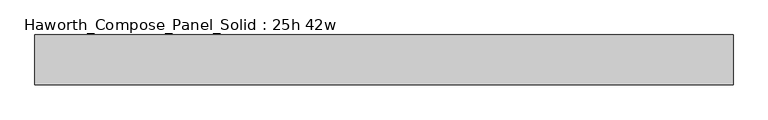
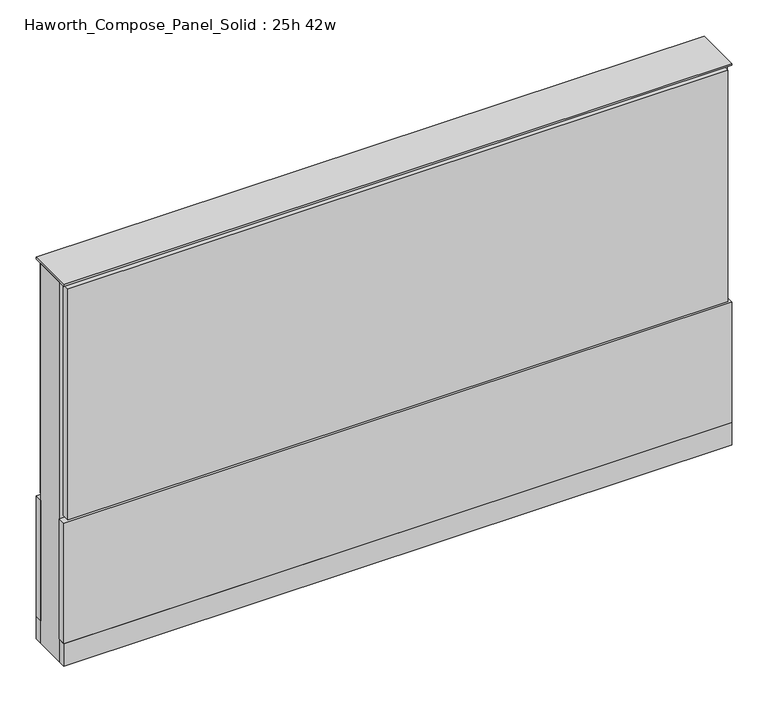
"""IFC4 building model written with IfcOpenShell, lengths in millimetres: furniture geometry, Haworth_Compose_Panel_Solid : 25h 42w."""

from ifc_helpers import new_model, si_unit, point, frame, frame_2d, origin, origin_with_axes, place, context, project, spatial, polyline, circle_curve, trimmed, segment, composite_curve, outline, extrude, source, transform, mapped, element, save


def haworth_compose_panel_solid_25h_42w_6fae4e9b(model_context):
    return source(origin(), model_context, "Body", "SweptSolid", [
        extrude(outline(composite_curve([segment(trimmed(circle_curve(frame_2d((-454.7597098, 0.0)), 12.7), [point((-467.4597098, 0.0))], [point((-442.0597098, 0.0))], False, "CARTESIAN"), True, "CONTINUOUS"), segment(trimmed(circle_curve(frame_2d((-454.7597098, 0.0)), 12.7), [point((-442.0597098, 0.0))], [point((-467.4597098, 0.0))], False, "CARTESIAN"), True, "CONTINUOUS")], self_intersect=False)), origin_with_axes(), (0.0, 0.0, 1.0), 12.7),
        extrude(outline(composite_curve([segment(trimmed(circle_curve(frame_2d((459.6402902, 0.0)), 12.7), [point((446.9402902, 0.0))], [point((472.3402902, 0.0))], False, "CARTESIAN"), True, "CONTINUOUS"), segment(trimmed(circle_curve(frame_2d((459.6402902, 0.0)), 12.7), [point((472.3402902, 0.0))], [point((446.9402902, 0.0))], False, "CARTESIAN"), True, "CONTINUOUS")], self_intersect=False)), origin_with_axes(), (0.0, 0.0, 1.0), 12.7),
        extrude(outline(polyline([(529.4902902, -38.1), (-524.6097098, -38.1), (-524.6097098, -25.4), (529.4902902, -25.4), (529.4902902, -38.1)])), frame((0.0, 0.0, 257.175), z_axis=(0.0, 0.0, 1.0), x_axis=(1.0, 0.0, 0.0)), (0.0, 0.0, 1.0), 390.525),
        extrude(outline(polyline([(535.8402902, -38.1), (-530.9597098, -38.1), (-530.9597098, -25.4), (535.8402902, -25.4), (535.8402902, -38.1)])), frame((0.0, 0.0, 50.8), z_axis=(0.0, 0.0, 1.0), x_axis=(1.0, 0.0, 0.0)), (0.0, 0.0, 1.0), 203.2),
        extrude(outline(polyline([(535.8402902, 38.1), (535.8402902, 25.4), (-530.9597098, 25.4), (-530.9597098, 38.1), (535.8402902, 38.1)])), frame((0.0, 0.0, 50.8), z_axis=(0.0, 0.0, 1.0), x_axis=(1.0, 0.0, 0.0)), (0.0, 0.0, 1.0), 203.2),
        extrude(outline(polyline([(529.4902902, 38.1), (529.4902902, 25.4), (-524.6097098, 25.4), (-524.6097098, 38.1), (529.4902902, 38.1)])), frame((0.0, 0.0, 257.175), z_axis=(0.0, 0.0, 1.0), x_axis=(1.0, 0.0, 0.0)), (0.0, 0.0, 1.0), 390.525),
        extrude(outline(polyline([(535.8402902, -25.4), (-530.9597098, -25.4), (-530.9597098, 25.4), (535.8402902, 25.4), (535.8402902, -25.4)])), frame((0.0, 0.0, 12.7), z_axis=(0.0, 0.0, 1.0), x_axis=(1.0, 0.0, 0.0)), (0.0, 0.0, 1.0), 641.35),
        extrude(outline(polyline([(-530.9597098, 38.1), (535.8402902, 38.1), (535.8402902, -38.1), (-530.9597098, -38.1), (-530.9597098, 38.1)])), frame((0.0, 0.0, 12.7), z_axis=(0.0, 0.0, 1.0), x_axis=(1.0, 0.0, 0.0)), (0.0, 0.0, 1.0), 38.1),
        extrude(outline(polyline([(-530.9597098, 38.1), (535.8402902, 38.1), (535.8402902, -38.1), (-530.9597098, -38.1), (-530.9597098, 38.1)])), frame((0.0, 0.0, 654.05), z_axis=(0.0, 0.0, 1.0), x_axis=(1.0, 0.0, 0.0)), (0.0, 0.0, 1.0), 3.175),
    ])


if __name__ == "__main__":
    model = new_model("IFC4")
    model_context = context("Model", 3, world=origin())
    ifc_project = project(units=[si_unit("LENGTHUNIT", "METRE", prefix="MILLI")], contexts=[model_context])
    site = spatial("IfcSite", under=ifc_project)
    building = spatial("IfcBuilding", under=site)
    placement = place(None, origin())
    haworth_compose_panel_solid_25h_42w_shape = haworth_compose_panel_solid_25h_42w_6fae4e9b(model_context)
    element("IfcFurniture", 1, ObjectType="Haworth_Compose_Panel_Solid : 25h 42w", at=placement, inside=building, context=model_context, shape_type="MappedRepresentation", body=[
        mapped(haworth_compose_panel_solid_25h_42w_shape, transform((0.0, 0.0, 0.0), x_axis=(1.0, 0.0, 0.0), y_axis=(0.0, 1.0, 0.0), z_axis=(0.0, 0.0, 1.0))),
    ])
    save(model, "model.ifc")
